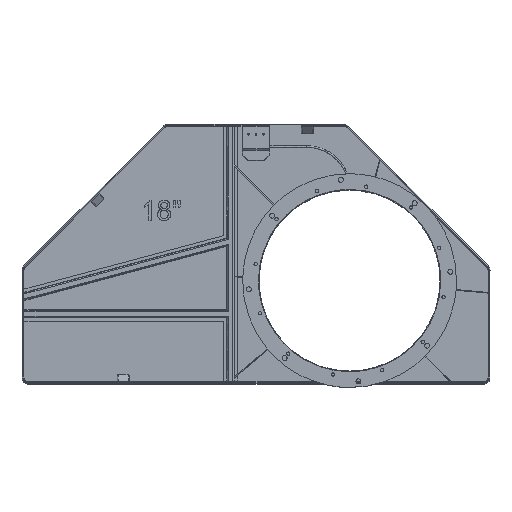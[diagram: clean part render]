
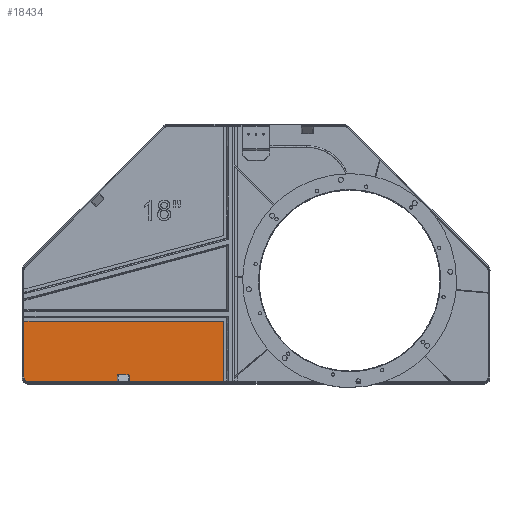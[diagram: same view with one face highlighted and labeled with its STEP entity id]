
A CAD part, top view. The second image highlights one B-rep face of the part: STEP entity #18434.
In plain terms, the highlighted free-form (B-spline) face has degree [1, 1] with [2, 2] control points.
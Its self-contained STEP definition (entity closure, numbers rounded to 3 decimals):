
#15957=CARTESIAN_POINT('',(-817.552,-244.52,5.75));
#15958=VERTEX_POINT('',#15957);
#15959=CARTESIAN_POINT('',(-817.552,-101.367,5.75));
#15960=VERTEX_POINT('',#15959);
#15961=CARTESIAN_POINT('',(-817.552,-244.52,5.75));
#15962=CARTESIAN_POINT('',(-817.552,-101.367,5.75));
#15963=B_SPLINE_CURVE_WITH_KNOTS('',1,(#15961,#15962),.POLYLINE_FORM.,.F.,.U.,(2,2),(0.545,0.694),.UNSPECIFIED.);
#15964=EDGE_CURVE('',#15958,#15960,#15963,.T.);
#16958=CARTESIAN_POINT('',(-316.957,-254.52,5.75));
#16959=VERTEX_POINT('',#16958);
#16965=CARTESIAN_POINT('',(-807.552,-254.52,5.75));
#16966=VERTEX_POINT('',#16965);
#16967=CARTESIAN_POINT('',(-316.957,-254.52,5.75));
#16968=CARTESIAN_POINT('',(-807.552,-254.52,5.75));
#16969=B_SPLINE_CURVE_WITH_KNOTS('',1,(#16967,#16968),.POLYLINE_FORM.,.F.,.U.,(2,2),(0.56,0.92),.UNSPECIFIED.);
#16970=EDGE_CURVE('',#16959,#16966,#16969,.T.);
#17019=CARTESIAN_POINT('',(-807.552,-254.52,5.75));
#17020=CARTESIAN_POINT('',(-817.552,-254.52,5.75));
#17021=CARTESIAN_POINT('',(-817.552,-244.52,5.75));
#17022=(BOUNDED_CURVE()B_SPLINE_CURVE(2,(#17019,#17020,#17021),.CIRCULAR_ARC.,.F.,.U.)B_SPLINE_CURVE_WITH_KNOTS((3,3),(0.,1.),.UNSPECIFIED.)CURVE()GEOMETRIC_REPRESENTATION_ITEM()RATIONAL_B_SPLINE_CURVE((1.,0.707,1.))REPRESENTATION_ITEM(''));
#17023=EDGE_CURVE('',#16966,#15958,#17022,.T.);
#18412=CARTESIAN_POINT('',(-817.552,-254.52,5.75));
#18413=CARTESIAN_POINT('',(-817.552,392.18,5.75));
#18414=CARTESIAN_POINT('',(347.513,-254.52,5.75));
#18415=CARTESIAN_POINT('',(347.513,392.18,5.75));
#18416=B_SPLINE_SURFACE_WITH_KNOTS('',1,1,((#18412,#18413),(#18414,#18415)),.PLANE_SURF.,.F.,.F.,.U.,(2,2),(2,2),(0.049,0.951),(0.049,0.55),.UNSPECIFIED.);
#18417=ORIENTED_EDGE('',*,*,#15964,.F.);
#18418=ORIENTED_EDGE('',*,*,#17023,.F.);
#18419=ORIENTED_EDGE('',*,*,#16970,.F.);
#18420=CARTESIAN_POINT('',(-316.957,-101.367,5.75));
#18421=VERTEX_POINT('',#18420);
#18422=CARTESIAN_POINT('',(-316.957,-101.367,5.75));
#18423=CARTESIAN_POINT('',(-316.957,-254.52,5.75));
#18424=B_SPLINE_CURVE_WITH_KNOTS('',1,(#18422,#18423),.POLYLINE_FORM.,.F.,.U.,(2,2),(0.272,0.661),.UNSPECIFIED.);
#18425=EDGE_CURVE('',#18421,#16959,#18424,.T.);
#18426=ORIENTED_EDGE('',*,*,#18425,.F.);
#18427=CARTESIAN_POINT('',(-817.552,-101.367,5.75));
#18428=CARTESIAN_POINT('',(-316.957,-101.367,5.75));
#18429=B_SPLINE_CURVE_WITH_KNOTS('',1,(#18427,#18428),.POLYLINE_FORM.,.F.,.U.,(2,2),(0.118,0.988),.UNSPECIFIED.);
#18430=EDGE_CURVE('',#15960,#18421,#18429,.T.);
#18431=ORIENTED_EDGE('',*,*,#18430,.F.);
#18432=EDGE_LOOP('',(#18417,#18418,#18419,#18426,#18431));
#18433=FACE_OUTER_BOUND('',#18432,.T.);
#18434=ADVANCED_FACE('',(#18433),#18416,.T.);
